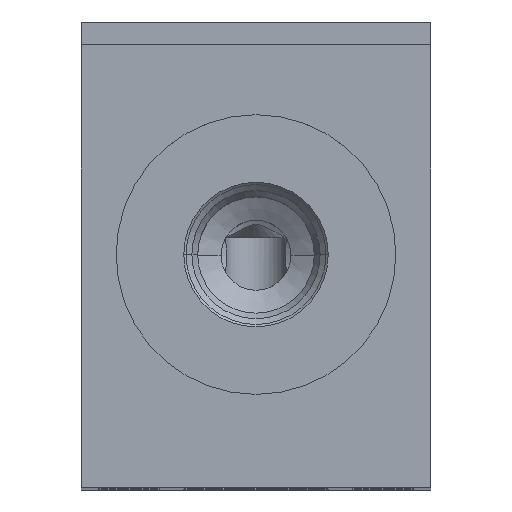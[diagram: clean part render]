
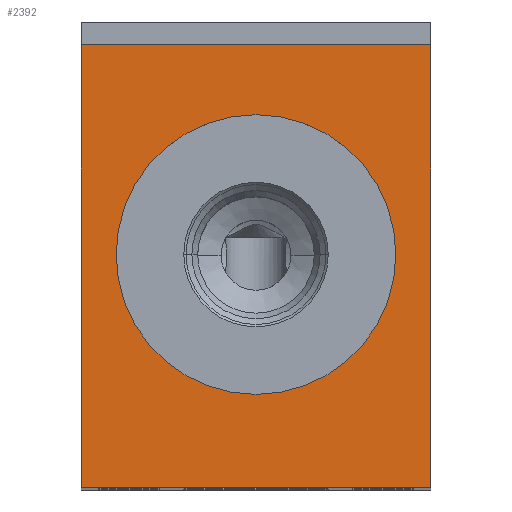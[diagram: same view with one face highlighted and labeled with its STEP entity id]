
A CAD part, top view. The second image highlights one B-rep face of the part: STEP entity #2392.
In plain terms, the highlighted planar face has unit normal (0, 0, 1).
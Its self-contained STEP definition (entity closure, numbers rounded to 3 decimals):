
#137=DIRECTION('',(1.,0.,0.));
#138=VECTOR('',#137,30.);
#139=CARTESIAN_POINT('',(0.,38.,116.));
#140=LINE('',#139,#138);
#144=DIRECTION('',(0.,1.,0.));
#145=VECTOR('',#144,38.);
#146=CARTESIAN_POINT('',(30.,0.,116.));
#147=LINE('',#146,#145);
#151=DIRECTION('',(1.,0.,0.));
#152=VECTOR('',#151,30.);
#153=CARTESIAN_POINT('',(0.,0.,116.));
#154=LINE('',#153,#152);
#158=DIRECTION('',(0.,-1.,0.));
#159=VECTOR('',#158,38.);
#160=CARTESIAN_POINT('',(0.,38.,116.));
#161=LINE('',#160,#159);
#165=CARTESIAN_POINT('',(15.,20.,116.));
#166=DIRECTION('',(0.,0.,-1.));
#167=DIRECTION('',(1.,0.,0.));
#168=AXIS2_PLACEMENT_3D('',#165,#166,#167);
#173=CARTESIAN_POINT('',(15.,20.,116.));
#174=DIRECTION('',(0.,0.,-1.));
#175=DIRECTION('',(-1.,0.,0.));
#176=AXIS2_PLACEMENT_3D('',#173,#174,#175);
#2045=CARTESIAN_POINT('',(0.,0.,116.));
#2046=CARTESIAN_POINT('',(30.,0.,116.));
#2047=VERTEX_POINT('',#2045);
#2048=VERTEX_POINT('',#2046);
#2053=CARTESIAN_POINT('',(0.,38.,116.));
#2054=CARTESIAN_POINT('',(30.,38.,116.));
#2055=VERTEX_POINT('',#2053);
#2056=VERTEX_POINT('',#2054);
#2093=CARTESIAN_POINT('',(27.,20.,116.));
#2094=VERTEX_POINT('',#2093);
#2095=CARTESIAN_POINT('',(3.,20.,116.));
#2096=VERTEX_POINT('',#2095);
#2373=CARTESIAN_POINT('',(0.,0.,116.));
#2374=DIRECTION('',(0.,0.,1.));
#2375=DIRECTION('',(1.,0.,0.));
#2376=AXIS2_PLACEMENT_3D('',#2373,#2374,#2375);
#2377=PLANE('',#2376);
#2378=ORIENTED_EDGE('',*,*,#2351,.T.);
#2379=ORIENTED_EDGE('',*,*,#2329,.F.);
#2381=ORIENTED_EDGE('',*,*,#2380,.F.);
#2383=ORIENTED_EDGE('',*,*,#2382,.F.);
#2384=EDGE_LOOP('',(#2378,#2379,#2381,#2383));
#2385=FACE_OUTER_BOUND('',#2384,.F.);
#2387=ORIENTED_EDGE('',*,*,#2386,.F.);
#2389=ORIENTED_EDGE('',*,*,#2388,.F.);
#2390=EDGE_LOOP('',(#2387,#2389));
#2391=FACE_BOUND('',#2390,.F.);
#169=CIRCLE('',#168,12.);
#177=CIRCLE('',#176,12.);
#2329=EDGE_CURVE('',#2048,#2056,#147,.T.);
#2351=EDGE_CURVE('',#2055,#2056,#140,.T.);
#2380=EDGE_CURVE('',#2047,#2048,#154,.T.);
#2382=EDGE_CURVE('',#2055,#2047,#161,.T.);
#2386=EDGE_CURVE('',#2094,#2096,#169,.T.);
#2388=EDGE_CURVE('',#2096,#2094,#177,.T.);
#2392=ADVANCED_FACE('',(#2385,#2391),#2377,.T.);
